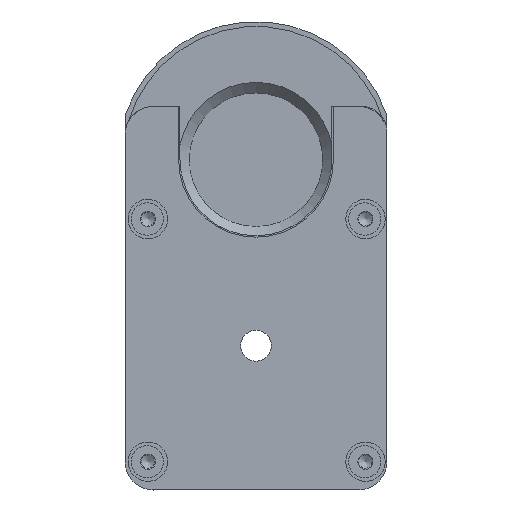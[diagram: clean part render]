
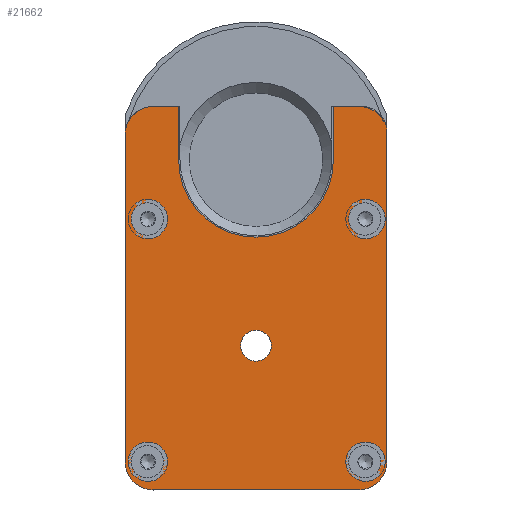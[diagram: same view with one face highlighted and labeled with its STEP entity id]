
A CAD part, top view. The second image highlights one B-rep face of the part: STEP entity #21662.
In plain terms, the highlighted planar face has unit normal (0, 0, 1).
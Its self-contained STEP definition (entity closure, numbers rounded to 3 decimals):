
#1809=VECTOR('',#26661,1.);
#1810=VECTOR('',#26662,1.);
#1811=VECTOR('',#26665,1.);
#1812=VECTOR('',#26668,1.);
#1813=VECTOR('',#26671,1.);
#1814=VECTOR('',#26674,1.);
#1815=VECTOR('',#26675,1.);
#3122=LINE('',#35656,#1809);
#3123=LINE('',#35658,#1810);
#3124=LINE('',#35662,#1811);
#3125=LINE('',#35666,#1812);
#3126=LINE('',#35670,#1813);
#3127=LINE('',#35674,#1814);
#3128=LINE('',#35676,#1815);
#11320=PLANE('',#23052);
#12566=VERTEX_POINT('',#35643);
#12568=VERTEX_POINT('',#35648);
#12569=VERTEX_POINT('',#35650);
#12570=VERTEX_POINT('',#35652);
#12571=VERTEX_POINT('',#35654);
#12572=VERTEX_POINT('',#35655);
#12573=VERTEX_POINT('',#35657);
#12574=VERTEX_POINT('',#35659);
#12575=VERTEX_POINT('',#35661);
#12576=VERTEX_POINT('',#35663);
#12577=VERTEX_POINT('',#35665);
#12578=VERTEX_POINT('',#35667);
#12579=VERTEX_POINT('',#35669);
#12580=VERTEX_POINT('',#35671);
#12581=VERTEX_POINT('',#35673);
#12582=VERTEX_POINT('',#35675);
#12583=VERTEX_POINT('',#35678);
#13097=CIRCLE('',#23050,0.115);
#13099=CIRCLE('',#23053,0.115);
#13100=CIRCLE('',#23054,0.115);
#13101=CIRCLE('',#23055,0.11);
#13102=CIRCLE('',#23056,0.55);
#13103=CIRCLE('',#23057,0.2);
#13104=CIRCLE('',#23058,0.2);
#13105=CIRCLE('',#23059,0.2);
#13106=CIRCLE('',#23060,0.181);
#13107=CIRCLE('',#23061,0.115);
#15033=EDGE_CURVE('',#12566,#12566,#13097,.T.);
#15035=EDGE_CURVE('',#12568,#12568,#13099,.T.);
#15036=EDGE_CURVE('',#12569,#12569,#13100,.T.);
#15037=EDGE_CURVE('',#12570,#12570,#13101,.T.);
#15038=EDGE_CURVE('',#12571,#12572,#13102,.T.);
#15039=EDGE_CURVE('',#12573,#12571,#3122,.T.);
#15040=EDGE_CURVE('',#12574,#12573,#3123,.T.);
#15041=EDGE_CURVE('',#12575,#12574,#13103,.T.);
#15042=EDGE_CURVE('',#12576,#12575,#3124,.T.);
#15043=EDGE_CURVE('',#12577,#12576,#13104,.T.);
#15044=EDGE_CURVE('',#12578,#12577,#3125,.T.);
#15045=EDGE_CURVE('',#12579,#12578,#13105,.T.);
#15046=EDGE_CURVE('',#12580,#12579,#3126,.T.);
#15047=EDGE_CURVE('',#12581,#12580,#13106,.T.);
#15048=EDGE_CURVE('',#12582,#12581,#3127,.T.);
#15049=EDGE_CURVE('',#12572,#12582,#3128,.T.);
#15050=EDGE_CURVE('',#12583,#12583,#13107,.T.);
#18896=ORIENTED_EDGE('',*,*,#15035,.F.);
#18897=ORIENTED_EDGE('',*,*,#15036,.F.);
#18898=ORIENTED_EDGE('',*,*,#15037,.F.);
#18899=ORIENTED_EDGE('',*,*,#15038,.F.);
#18900=ORIENTED_EDGE('',*,*,#15039,.F.);
#18901=ORIENTED_EDGE('',*,*,#15040,.F.);
#18902=ORIENTED_EDGE('',*,*,#15041,.F.);
#18903=ORIENTED_EDGE('',*,*,#15042,.F.);
#18904=ORIENTED_EDGE('',*,*,#15043,.F.);
#18905=ORIENTED_EDGE('',*,*,#15044,.F.);
#18906=ORIENTED_EDGE('',*,*,#15045,.F.);
#18907=ORIENTED_EDGE('',*,*,#15046,.F.);
#18908=ORIENTED_EDGE('',*,*,#15047,.F.);
#18909=ORIENTED_EDGE('',*,*,#15048,.F.);
#18910=ORIENTED_EDGE('',*,*,#15049,.F.);
#18911=ORIENTED_EDGE('',*,*,#15050,.F.);
#18912=ORIENTED_EDGE('',*,*,#15033,.F.);
#19951=EDGE_LOOP('',(#18896));
#19952=EDGE_LOOP('',(#18897));
#19953=EDGE_LOOP('',(#18898));
#19954=EDGE_LOOP('',(#18899,#18900,#18901,#18902,#18903,#18904,#18905,#18906,
#18907,#18908,#18909,#18910));
#19955=EDGE_LOOP('',(#18911));
#19956=EDGE_LOOP('',(#18912));
#20835=FACE_BOUND('',#19951,.T.);
#20836=FACE_BOUND('',#19952,.T.);
#20837=FACE_BOUND('',#19953,.T.);
#20838=FACE_BOUND('',#19954,.T.);
#20839=FACE_BOUND('',#19955,.T.);
#20840=FACE_BOUND('',#19956,.T.);
#21662=ADVANCED_FACE('',(#20835,#20836,#20837,#20838,#20839,#20840),#11320,
 .T.);
#23050=AXIS2_PLACEMENT_3D('',#35642,#26648,#26649);
#23052=AXIS2_PLACEMENT_3D('',#35646,#26652,$);
#23053=AXIS2_PLACEMENT_3D('',#35647,#26653,#26654);
#23054=AXIS2_PLACEMENT_3D('',#35649,#26655,#26656);
#23055=AXIS2_PLACEMENT_3D('',#35651,#26657,#26658);
#23056=AXIS2_PLACEMENT_3D('',#35653,#26659,#26660);
#23057=AXIS2_PLACEMENT_3D('',#35660,#26663,#26664);
#23058=AXIS2_PLACEMENT_3D('',#35664,#26666,#26667);
#23059=AXIS2_PLACEMENT_3D('',#35668,#26669,#26670);
#23060=AXIS2_PLACEMENT_3D('',#35672,#26672,#26673);
#23061=AXIS2_PLACEMENT_3D('',#35677,#26676,#26677);
#26648=DIRECTION('',(0.,0.,1.));
#26649=DIRECTION('',(-0.115,0.,0.));
#26652=DIRECTION('',(0.,0.,1.));
#26653=DIRECTION('',(0.,0.,1.));
#26654=DIRECTION('',(-0.115,0.,0.));
#26655=DIRECTION('',(0.,0.,1.));
#26656=DIRECTION('',(-0.115,0.,0.));
#26657=DIRECTION('',(0.,0.,1.));
#26658=DIRECTION('',(0.11,0.,0.));
#26659=DIRECTION('',(0.,0.,1.));
#26660=DIRECTION('',(0.55,0.,0.));
#26661=DIRECTION('',(0.,-1.,0.));
#26662=DIRECTION('',(1.,0.,0.));
#26663=DIRECTION('',(0.,0.,-1.));
#26664=DIRECTION('',(0.2,0.,0.));
#26665=DIRECTION('',(0.,1.,0.));
#26666=DIRECTION('',(0.,0.,-1.));
#26667=DIRECTION('',(0.2,0.,0.));
#26668=DIRECTION('',(-1.,0.,0.));
#26669=DIRECTION('',(0.,0.,-1.));
#26670=DIRECTION('',(0.2,0.,0.));
#26671=DIRECTION('',(0.,-1.,0.));
#26672=DIRECTION('',(0.,0.,-1.));
#26673=DIRECTION('',(0.181,0.,0.));
#26674=DIRECTION('',(1.,0.,0.));
#26675=DIRECTION('',(0.,1.,0.));
#26676=DIRECTION('',(0.,0.,1.));
#26677=DIRECTION('',(-0.115,0.,0.));
#35642=CARTESIAN_POINT('',(0.778,-0.824,-0.383));
#35643=CARTESIAN_POINT('',(0.893,-0.824,-0.383));
#35646=CARTESIAN_POINT('',(0.006,0.393,-0.383));
#35647=CARTESIAN_POINT('',(-0.768,-0.824,-0.383));
#35648=CARTESIAN_POINT('',(-0.653,-0.824,-0.383));
#35649=CARTESIAN_POINT('',(-0.768,0.901,-0.383));
#35650=CARTESIAN_POINT('',(-0.653,0.901,-0.383));
#35651=CARTESIAN_POINT('',(0.005,0.001,-0.383));
#35652=CARTESIAN_POINT('',(0.115,0.001,-0.383));
#35653=CARTESIAN_POINT('',(0.005,1.322,-0.383));
#35654=CARTESIAN_POINT('',(-0.545,1.322,-0.383));
#35655=CARTESIAN_POINT('',(0.555,1.322,-0.383));
#35656=CARTESIAN_POINT('',(-0.545,1.322,-0.383));
#35657=CARTESIAN_POINT('',(-0.545,1.701,-0.383));
#35658=CARTESIAN_POINT('',(-0.545,1.701,-0.383));
#35659=CARTESIAN_POINT('',(-0.725,1.701,-0.383));
#35660=CARTESIAN_POINT('',(-0.725,1.501,-0.383));
#35661=CARTESIAN_POINT('',(-0.925,1.501,-0.383));
#35662=CARTESIAN_POINT('',(-0.925,1.501,-0.383));
#35663=CARTESIAN_POINT('',(-0.925,-0.824,-0.383));
#35664=CARTESIAN_POINT('',(-0.725,-0.824,-0.383));
#35665=CARTESIAN_POINT('',(-0.725,-1.024,-0.383));
#35666=CARTESIAN_POINT('',(-0.725,-1.024,-0.383));
#35667=CARTESIAN_POINT('',(0.735,-1.024,-0.383));
#35668=CARTESIAN_POINT('',(0.735,-0.824,-0.383));
#35669=CARTESIAN_POINT('',(0.935,-0.824,-0.383));
#35670=CARTESIAN_POINT('',(0.935,-0.824,-0.383));
#35671=CARTESIAN_POINT('',(0.935,1.501,-0.383));
#35672=CARTESIAN_POINT('',(0.755,1.521,-0.383));
#35673=CARTESIAN_POINT('',(0.775,1.701,-0.383));
#35674=CARTESIAN_POINT('',(0.775,1.701,-0.383));
#35675=CARTESIAN_POINT('',(0.555,1.701,-0.383));
#35676=CARTESIAN_POINT('',(0.555,1.701,-0.383));
#35677=CARTESIAN_POINT('',(0.778,0.901,-0.383));
#35678=CARTESIAN_POINT('',(0.893,0.901,-0.383));
